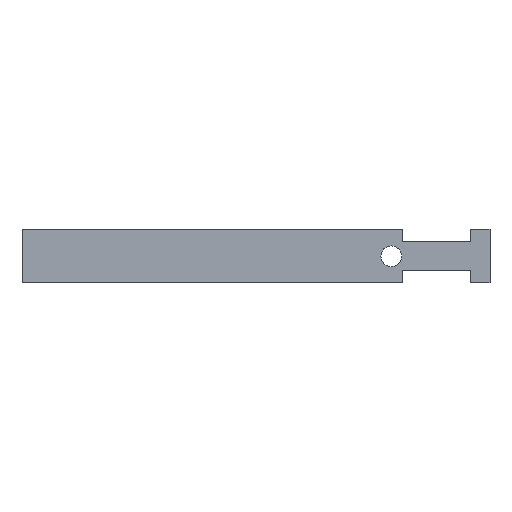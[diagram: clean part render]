
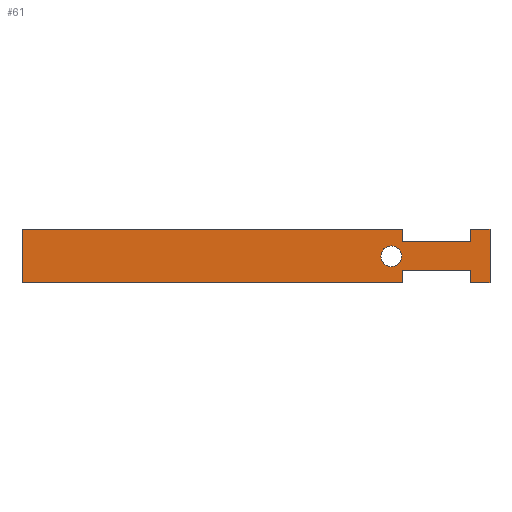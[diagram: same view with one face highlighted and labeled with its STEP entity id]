
A CAD part, top view. The second image highlights one B-rep face of the part: STEP entity #61.
In plain terms, the highlighted planar face has unit normal (0, 0, 1).
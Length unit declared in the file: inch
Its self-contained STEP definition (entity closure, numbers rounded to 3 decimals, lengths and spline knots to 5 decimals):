
#61=ADVANCED_FACE('',(#125,#126),#127,.T.);
#125=FACE_BOUND('',#211,.T.);
#126=FACE_OUTER_BOUND('',#212,.T.);
#127=PLANE('',#213);
#211=EDGE_LOOP('',(#302,#303,#304,#305));
#212=EDGE_LOOP('',(#306,#307,#308,#309,#310,#311,#312,#313,#314,#315,#316,#317));
#213=AXIS2_PLACEMENT_3D('',#318,#319,#320);
#302=ORIENTED_EDGE('',*,*,#454,.F.);
#303=ORIENTED_EDGE('',*,*,#434,.F.);
#304=ORIENTED_EDGE('',*,*,#455,.F.);
#305=ORIENTED_EDGE('',*,*,#444,.F.);
#306=ORIENTED_EDGE('',*,*,#456,.T.);
#307=ORIENTED_EDGE('',*,*,#442,.F.);
#308=ORIENTED_EDGE('',*,*,#457,.F.);
#309=ORIENTED_EDGE('',*,*,#458,.F.);
#310=ORIENTED_EDGE('',*,*,#449,.F.);
#311=ORIENTED_EDGE('',*,*,#459,.F.);
#312=ORIENTED_EDGE('',*,*,#460,.F.);
#313=ORIENTED_EDGE('',*,*,#461,.F.);
#314=ORIENTED_EDGE('',*,*,#462,.F.);
#315=ORIENTED_EDGE('',*,*,#463,.F.);
#316=ORIENTED_EDGE('',*,*,#464,.F.);
#317=ORIENTED_EDGE('',*,*,#465,.F.);
#318=CARTESIAN_POINT('',(0.0,0.6875,0.105));
#319=DIRECTION('',(0.0,-0.0,1.0));
#320=DIRECTION('',(0.0,1.0,0.0));
#434=EDGE_CURVE('',#501,#502,#503,.T.);
#442=EDGE_CURVE('',#515,#510,#517,.T.);
#444=EDGE_CURVE('',#519,#520,#521,.T.);
#449=EDGE_CURVE('',#528,#529,#530,.T.);
#454=EDGE_CURVE('',#502,#519,#537,.T.);
#455=EDGE_CURVE('',#520,#501,#538,.T.);
#456=EDGE_CURVE('',#539,#510,#540,.T.);
#457=EDGE_CURVE('',#541,#515,#542,.T.);
#458=EDGE_CURVE('',#529,#541,#543,.T.);
#459=EDGE_CURVE('',#544,#528,#545,.T.);
#460=EDGE_CURVE('',#546,#544,#547,.T.);
#461=EDGE_CURVE('',#548,#546,#549,.T.);
#462=EDGE_CURVE('',#550,#548,#551,.T.);
#463=EDGE_CURVE('',#552,#550,#553,.T.);
#464=EDGE_CURVE('',#554,#552,#555,.T.);
#465=EDGE_CURVE('',#539,#554,#556,.T.);
#501=VERTEX_POINT('',#600);
#502=VERTEX_POINT('',#601);
#503=B_SPLINE_CURVE_WITH_KNOTS('',3,(#602,#603,#604,#605),.UNSPECIFIED.,.F.,.F.,(4,4),(-1.0,-0.0),.UNSPECIFIED.);
#510=VERTEX_POINT('',#617);
#515=VERTEX_POINT('',#624);
#517=LINE('',#627,#628);
#519=VERTEX_POINT('',#630);
#520=VERTEX_POINT('',#631);
#521=B_SPLINE_CURVE_WITH_KNOTS('',3,(#632,#633,#634,#635),.UNSPECIFIED.,.F.,.F.,(4,4),(-1.0,-0.0),.UNSPECIFIED.);
#528=VERTEX_POINT('',#647);
#529=VERTEX_POINT('',#648);
#530=LINE('',#649,#650);
#537=B_SPLINE_CURVE_WITH_KNOTS('',3,(#660,#661,#662,#663),.UNSPECIFIED.,.F.,.F.,(4,4),(-1.0,-0.0),.UNSPECIFIED.);
#538=B_SPLINE_CURVE_WITH_KNOTS('',3,(#664,#665,#666,#667),.UNSPECIFIED.,.F.,.F.,(4,4),(-1.0,-0.0),.UNSPECIFIED.);
#539=VERTEX_POINT('',#668);
#540=LINE('',#669,#670);
#541=VERTEX_POINT('',#671);
#542=LINE('',#672,#673);
#543=LINE('',#674,#675);
#544=VERTEX_POINT('',#676);
#545=LINE('',#677,#678);
#546=VERTEX_POINT('',#679);
#547=LINE('',#680,#681);
#548=VERTEX_POINT('',#682);
#549=LINE('',#683,#684);
#550=VERTEX_POINT('',#685);
#551=LINE('',#686,#687);
#552=VERTEX_POINT('',#688);
#553=LINE('',#689,#690);
#554=VERTEX_POINT('',#691);
#555=LINE('',#692,#693);
#556=LINE('',#694,#695);
#600=CARTESIAN_POINT('',(6.73428,0.68007,0.105));
#601=CARTESIAN_POINT('',(6.46866,0.94569,0.105));
#602=CARTESIAN_POINT('',(6.73428,0.68007,0.105));
#603=CARTESIAN_POINT('',(6.73428,0.82677,0.105));
#604=CARTESIAN_POINT('',(6.61536,0.94569,0.105));
#605=CARTESIAN_POINT('',(6.46866,0.94569,0.105));
#617=CARTESIAN_POINT('',(-3.0,0.0,0.105));
#624=CARTESIAN_POINT('',(6.75007,0.0,0.105));
#627=CARTESIAN_POINT('',(0.0,0.0,0.105));
#628=VECTOR('',#767,1.0);
#630=CARTESIAN_POINT('',(6.20303,0.68007,0.105));
#631=CARTESIAN_POINT('',(6.46866,0.41444,0.105));
#632=CARTESIAN_POINT('',(6.20303,0.68007,0.105));
#633=CARTESIAN_POINT('',(6.20303,0.53337,0.105));
#634=CARTESIAN_POINT('',(6.32195,0.41444,0.105));
#635=CARTESIAN_POINT('',(6.46866,0.41444,0.105));
#647=CARTESIAN_POINT('',(8.5,0.0,0.105));
#648=CARTESIAN_POINT('',(8.50007,0.31246,0.105));
#649=CARTESIAN_POINT('',(8.5,0.0,0.105));
#650=VECTOR('',#770,1.0);
#660=CARTESIAN_POINT('',(6.46866,0.94569,0.105));
#661=CARTESIAN_POINT('',(6.32195,0.94569,0.105));
#662=CARTESIAN_POINT('',(6.20303,0.82677,0.105));
#663=CARTESIAN_POINT('',(6.20303,0.68007,0.105));
#664=CARTESIAN_POINT('',(6.46866,0.41444,0.105));
#665=CARTESIAN_POINT('',(6.61536,0.41444,0.105));
#666=CARTESIAN_POINT('',(6.73428,0.53337,0.105));
#667=CARTESIAN_POINT('',(6.73428,0.68007,0.105));
#668=CARTESIAN_POINT('',(-3.0,1.375,0.105));
#669=CARTESIAN_POINT('',(-3.0,0.0,0.105));
#670=VECTOR('',#774,1.0);
#671=CARTESIAN_POINT('',(6.75007,0.31269,0.105));
#672=CARTESIAN_POINT('',(6.75007,0.31269,0.105));
#673=VECTOR('',#775,1.0);
#674=CARTESIAN_POINT('',(8.50007,0.31246,0.105));
#675=VECTOR('',#776,1.0);
#676=CARTESIAN_POINT('',(9.0,0.0,0.105));
#677=CARTESIAN_POINT('',(9.0,0.0,0.105));
#678=VECTOR('',#777,1.0);
#679=CARTESIAN_POINT('',(9.0,1.375,0.105));
#680=CARTESIAN_POINT('',(9.0,1.375,0.105));
#681=VECTOR('',#778,1.0);
#682=CARTESIAN_POINT('',(8.5,1.375,0.105));
#683=CARTESIAN_POINT('',(8.5,1.375,0.105));
#684=VECTOR('',#779,1.0);
#685=CARTESIAN_POINT('',(8.50007,1.06246,0.105));
#686=CARTESIAN_POINT('',(8.50007,1.06246,0.105));
#687=VECTOR('',#780,1.0);
#688=CARTESIAN_POINT('',(6.75007,1.06288,0.105));
#689=CARTESIAN_POINT('',(6.75007,1.06288,0.105));
#690=VECTOR('',#781,1.0);
#691=CARTESIAN_POINT('',(6.75007,1.375,0.105));
#692=CARTESIAN_POINT('',(6.75007,1.375,0.105));
#693=VECTOR('',#782,1.0);
#694=CARTESIAN_POINT('',(0.0,1.375,0.105));
#695=VECTOR('',#783,1.0);
#767=DIRECTION('',(-1.0,0.0,0.0));
#770=DIRECTION('',(0.,1.,0.0));
#774=DIRECTION('',(-0.0,-1.0,-0.0));
#775=DIRECTION('',(0.0,-1.0,0.0));
#776=DIRECTION('',(-1.,0.,0.0));
#777=DIRECTION('',(-1.0,0.0,0.0));
#778=DIRECTION('',(0.0,-1.0,0.0));
#779=DIRECTION('',(1.0,0.0,0.0));
#780=DIRECTION('',(0.,1.,0.0));
#781=DIRECTION('',(1.,0.,0.0));
#782=DIRECTION('',(0.0,-1.0,0.0));
#783=DIRECTION('',(1.0,0.0,0.0));
